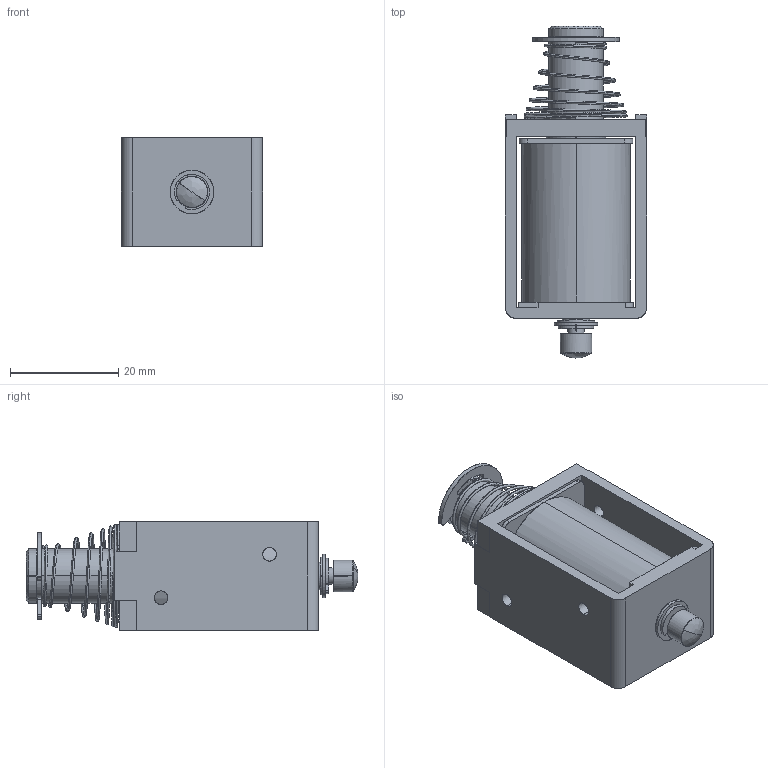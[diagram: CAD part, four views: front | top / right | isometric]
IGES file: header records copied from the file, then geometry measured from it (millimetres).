
Start section: SolidWorks IGES file using analytic representation for surfaces
Global section: file name: L:\カタログ\web用3Dデータ\CB1037\3C_CB1037\w_cb1037.IGS; native system: SolidWorks 2014; preprocessor: SolidWorks 2014; author: jiba; date: 140729.143046; units: millimetre
Bounding box: 26 x 61.2 x 20 mm (x, y, z)
Surface area: 13003.8 mm2 (no closed solid volume)
Topology: 0 solids, 0 shells, 194 faces, 2850 edges, 2845 vertices
Faces by surface type: revolution 98, bspline 96
